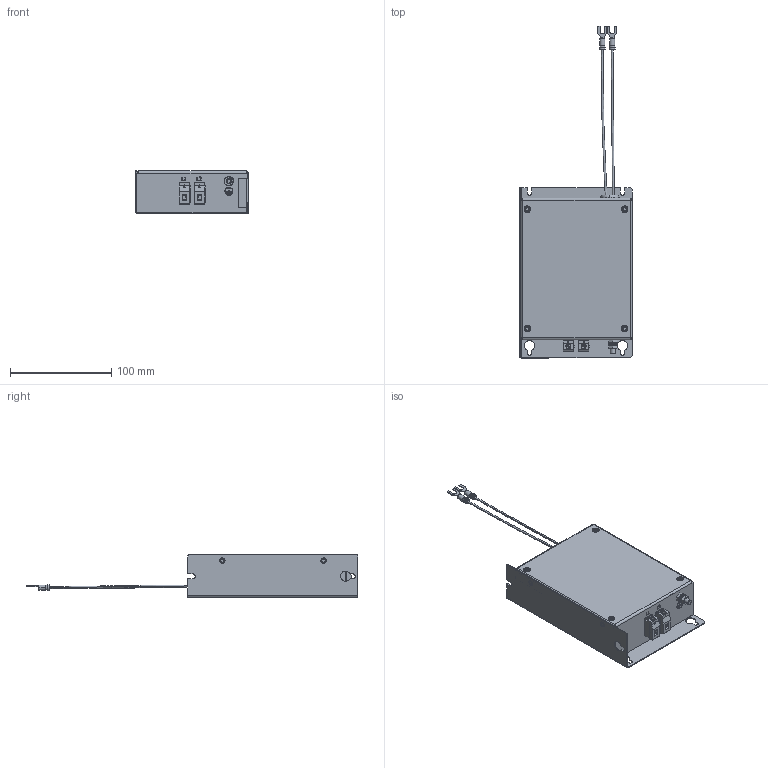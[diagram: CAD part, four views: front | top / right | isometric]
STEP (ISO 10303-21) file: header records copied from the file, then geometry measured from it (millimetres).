
FILE_DESCRIPTION (( 'STEP AP214' ), '1' );
FILE_NAME ('EFR-EFF-1B-24A.STEP', '2026-01-14T08:46:37', ( '' ), ( '' ), 'SwSTEP 2.0', 'SolidWorks 2025', '' );
FILE_SCHEMA (( 'AUTOMOTIVE_DESIGN' ));
Length unit declared in the file: millimetre
Products named in the file (16): IFI 505 - 42, FHSBMBR.stp; ID12.7.stp; ISO 7045 - M5 x 16 - 4.8 - Z.stp; 1000-504_1.stp; MPT410.stp; 1B_update_10JN26.stp; BS 4464 - 5.35.stp; 1000-504 L.stp; ISO 4036 - M5.stp; #8 Terminal Spade 16 - 14 AWG.stp; EFR-EFF-1B-24A; 1000-504.Harness1_1.stp; ISO 7092 - ST 5 - 140 HV.stp; DIN EN 24 036 - M5.stp; 1.stp; 1000-504.Harness1.stp
Assembly tree (24 placements, depth 4):
  EFR-EFF-1B-24A
    1B_update_10JN26.stp
      1000-504.Harness1.stp
        1000-504.Harness1_1.stp
      1000-504_1.stp
      1000-504 L.stp
      MPT410.stp  x2
      ISO 7045 - M5 x 16 - 4.8 - Z.stp
      ISO 4036 - M5.stp
      ISO 7092 - ST 5 - 140 HV.stp  x2
      BS 4464 - 5.35.stp
      DIN EN 24 036 - M5.stp
      1.stp  x4
      ID12.7.stp
      #8 Terminal Spade 16 - 14 AWG.stp  x2
      IFI 505 - 42, FHSBMBR.stp  x4
Bounding box: 111.42 x 328 x 42.46 mm (x, y, z)
Volume: 65193.2 mm3; surface area: 126348.2 mm2
Topology: 23 solids, 53 shells, 1630 faces, 4223 edges, 2733 vertices
Faces by surface type: plane 1240, cylinder 230, cone 90, bspline 40, torus 28, sphere 2
Full cylindrical faces by diameter (mm): 4.8 x4
Entity records: 24443 total; most frequent: CARTESIAN_POINT 6121, ORIENTED_EDGE 3836, DIRECTION 3426, EDGE_CURVE 1922, VERTEX_POINT 1236, LINE 1202, VECTOR 1202, AXIS2_PLACEMENT_3D 1112
